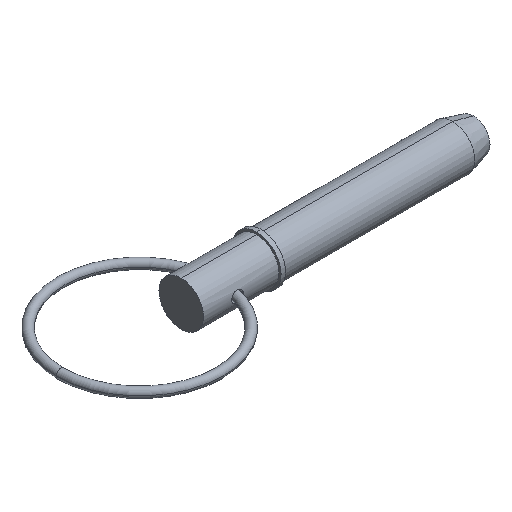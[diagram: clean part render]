
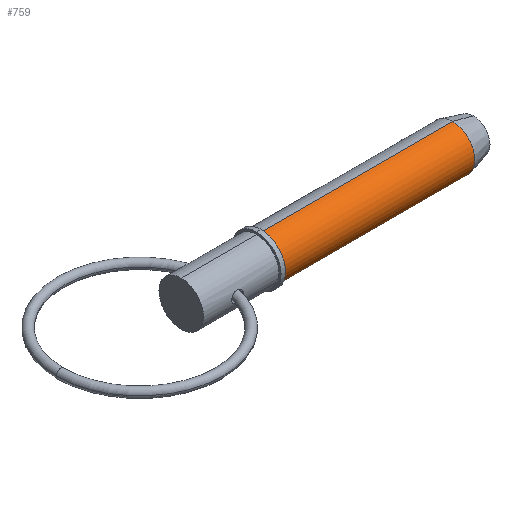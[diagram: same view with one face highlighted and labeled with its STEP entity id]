
A CAD part, isometric view. The second image highlights one B-rep face of the part: STEP entity #759.
In plain terms, the highlighted cylindrical face has radius 7.145 mm (diameter 14.29 mm), a partial arc.
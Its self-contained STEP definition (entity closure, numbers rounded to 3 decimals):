
#22 = EDGE_CURVE ( 'NONE', #244, #623, #188, .T. ) ;
#68 = DIRECTION ( 'NONE',  ( 0., 0., -1. ) ) ;
#111 = VECTOR ( 'NONE', #190, 1000. ) ;
#113 = DIRECTION ( 'NONE',  ( 1., 0., 0. ) ) ;
#122 = CARTESIAN_POINT ( 'NONE',  ( 25.7, 0., -7.145 ) ) ;
#143 = AXIS2_PLACEMENT_3D ( 'NONE', #570, #149, #68 ) ;
#149 = DIRECTION ( 'NONE',  ( 1., 0., 0. ) ) ;
#176 = CARTESIAN_POINT ( 'NONE',  ( 0., 0., 7.145 ) ) ;
#188 = LINE ( 'NONE', #176, #229 ) ;
#190 = DIRECTION ( 'NONE',  ( 1., 0., 0. ) ) ;
#191 = DIRECTION ( 'NONE',  ( 0., 0., -1. ) ) ;
#229 = VECTOR ( 'NONE', #999, 1000. ) ;
#236 = ORIENTED_EDGE ( 'NONE', *, *, #977, .F. ) ;
#244 = VERTEX_POINT ( 'NONE', #456 ) ;
#275 = LINE ( 'NONE', #995, #111 ) ;
#360 = CARTESIAN_POINT ( 'NONE',  ( 0., 0., 0. ) ) ;
#369 = CYLINDRICAL_SURFACE ( 'NONE', #392, 7.145 ) ;
#392 = AXIS2_PLACEMENT_3D ( 'NONE', #360, #113, #191 ) ;
#404 = ORIENTED_EDGE ( 'NONE', *, *, #851, .T. ) ;
#412 = ORIENTED_EDGE ( 'NONE', *, *, #972, .T. ) ;
#456 = CARTESIAN_POINT ( 'NONE',  ( 25.7, 0., 7.145 ) ) ;
#472 = CARTESIAN_POINT ( 'NONE',  ( 87.284, 0., -7.145 ) ) ;
#479 = EDGE_LOOP ( 'NONE', ( #949, #404, #412, #236 ) ) ;
#570 = CARTESIAN_POINT ( 'NONE',  ( 25.7, 0., 0. ) ) ;
#602 = DIRECTION ( 'NONE',  ( 1., 0., 0. ) ) ;
#611 = DIRECTION ( 'NONE',  ( 0., 0., -1. ) ) ;
#619 = CARTESIAN_POINT ( 'NONE',  ( 87.284, 0., 0. ) ) ;
#623 = VERTEX_POINT ( 'NONE', #629 ) ;
#629 = CARTESIAN_POINT ( 'NONE',  ( 87.284, 0., 7.145 ) ) ;
#670 = CIRCLE ( 'NONE', #717, 7.145 ) ;
#717 = AXIS2_PLACEMENT_3D ( 'NONE', #619, #602, #611 ) ;
#759 = ADVANCED_FACE ( 'NONE', ( #1014 ), #369, .T. ) ;
#801 = VERTEX_POINT ( 'NONE', #122 ) ;
#851 = EDGE_CURVE ( 'NONE', #244, #801, #983, .T. ) ;
#882 = VERTEX_POINT ( 'NONE', #472 ) ;
#949 = ORIENTED_EDGE ( 'NONE', *, *, #22, .F. ) ;
#972 = EDGE_CURVE ( 'NONE', #801, #882, #275, .T. ) ;
#977 = EDGE_CURVE ( 'NONE', #623, #882, #670, .T. ) ;
#983 = CIRCLE ( 'NONE', #143, 7.145 ) ;
#995 = CARTESIAN_POINT ( 'NONE',  ( 0., 0., -7.145 ) ) ;
#999 = DIRECTION ( 'NONE',  ( 1., 0., 0. ) ) ;
#1014 = FACE_OUTER_BOUND ( 'NONE', #479, .T. ) ;
